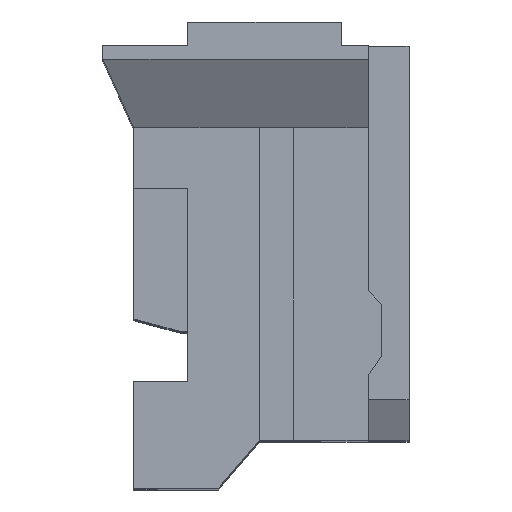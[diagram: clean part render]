
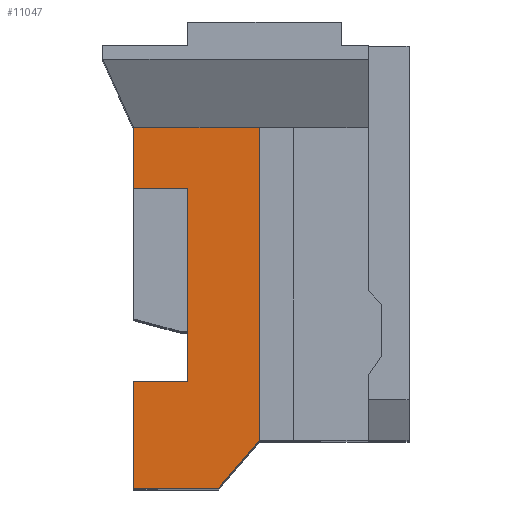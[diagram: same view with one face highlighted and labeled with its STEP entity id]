
A CAD part, top view. The second image highlights one B-rep face of the part: STEP entity #11047.
In plain terms, the highlighted planar face has unit normal (0, 0, 1).
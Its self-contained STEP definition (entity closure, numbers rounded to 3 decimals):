
#1833=DIRECTION('',(-0.651,-0.759,0.));
#1834=VECTOR('',#1833,0.922);
#1835=CARTESIAN_POINT('',(1.85,0.7,-0.575));
#1836=LINE('',#1835,#1834);
#1837=DIRECTION('',(-1.,0.,0.));
#1838=VECTOR('',#1837,1.25);
#1839=CARTESIAN_POINT('',(1.25,0.,-0.575));
#1840=LINE('',#1839,#1838);
#1841=DIRECTION('',(0.,1.,0.));
#1842=VECTOR('',#1841,1.56);
#1843=CARTESIAN_POINT('',(0.,0.,-0.575));
#1844=LINE('',#1843,#1842);
#1845=DIRECTION('',(1.,0.,0.));
#1846=VECTOR('',#1845,0.8);
#1847=CARTESIAN_POINT('',(0.,1.56,-0.575));
#1848=LINE('',#1847,#1846);
#1849=DIRECTION('',(0.,1.,0.));
#1850=VECTOR('',#1849,2.84);
#1851=CARTESIAN_POINT('',(0.8,1.56,-0.575));
#1852=LINE('',#1851,#1850);
#1853=DIRECTION('',(-1.,0.,0.));
#1854=VECTOR('',#1853,0.8);
#1855=CARTESIAN_POINT('',(0.8,4.4,-0.575));
#1856=LINE('',#1855,#1854);
#1857=DIRECTION('',(0.,1.,0.));
#1858=VECTOR('',#1857,0.9);
#1859=CARTESIAN_POINT('',(0.,4.4,-0.575));
#1860=LINE('',#1859,#1858);
#1861=DIRECTION('',(1.,0.,0.));
#1862=VECTOR('',#1861,1.85);
#1863=CARTESIAN_POINT('',(0.,5.3,-0.575));
#1864=LINE('',#1863,#1862);
#1869=DIRECTION('',(0.,1.,0.));
#1870=VECTOR('',#1869,4.6);
#1871=CARTESIAN_POINT('',(1.85,0.7,-0.575));
#1872=LINE('',#1871,#1870);
#7033=CARTESIAN_POINT('',(1.85,5.3,-0.575));
#7035=VERTEX_POINT('',#7033);
#7039=CARTESIAN_POINT('',(0.,5.3,-0.575));
#7040=VERTEX_POINT('',#7039);
#7077=CARTESIAN_POINT('',(1.85,0.7,-0.575));
#7078=CARTESIAN_POINT('',(1.25,0.,-0.575));
#7079=VERTEX_POINT('',#7077);
#7080=VERTEX_POINT('',#7078);
#7093=CARTESIAN_POINT('',(0.,0.,-0.575));
#7094=VERTEX_POINT('',#7093);
#7111=CARTESIAN_POINT('',(0.,4.4,-0.575));
#7112=VERTEX_POINT('',#7111);
#7419=CARTESIAN_POINT('',(0.,1.56,-0.575));
#7420=VERTEX_POINT('',#7419);
#7485=CARTESIAN_POINT('',(0.8,1.56,-0.575));
#7486=VERTEX_POINT('',#7485);
#7487=CARTESIAN_POINT('',(0.8,4.4,-0.575));
#7488=VERTEX_POINT('',#7487);
#11026=CARTESIAN_POINT('',(0.925,2.65,-0.575));
#11027=DIRECTION('',(0.,0.,1.));
#11028=DIRECTION('',(0.,-1.,0.));
#11029=AXIS2_PLACEMENT_3D('',#11026,#11027,#11028);
#11030=PLANE('',#11029);
#11032=ORIENTED_EDGE('',*,*,#11031,.F.);
#11033=ORIENTED_EDGE('',*,*,#8844,.T.);
#11034=ORIENTED_EDGE('',*,*,#8822,.T.);
#11036=ORIENTED_EDGE('',*,*,#11035,.T.);
#11038=ORIENTED_EDGE('',*,*,#11037,.T.);
#11040=ORIENTED_EDGE('',*,*,#11039,.T.);
#11042=ORIENTED_EDGE('',*,*,#11041,.T.);
#11043=ORIENTED_EDGE('',*,*,#8627,.T.);
#11044=ORIENTED_EDGE('',*,*,#8036,.T.);
#11045=EDGE_LOOP('',(#11032,#11033,#11034,#11036,#11038,#11040,#11042,#11043,
#11044));
#11046=FACE_OUTER_BOUND('',#11045,.F.);
#11047=ADVANCED_FACE('',(#11046),#11030,.T.);
#8036=EDGE_CURVE('',#7040,#7035,#1864,.T.);
#8627=EDGE_CURVE('',#7112,#7040,#1860,.T.);
#8822=EDGE_CURVE('',#7080,#7094,#1840,.T.);
#8844=EDGE_CURVE('',#7079,#7080,#1836,.T.);
#11031=EDGE_CURVE('',#7079,#7035,#1872,.T.);
#11035=EDGE_CURVE('',#7094,#7420,#1844,.T.);
#11037=EDGE_CURVE('',#7420,#7486,#1848,.T.);
#11039=EDGE_CURVE('',#7486,#7488,#1852,.T.);
#11041=EDGE_CURVE('',#7488,#7112,#1856,.T.);
